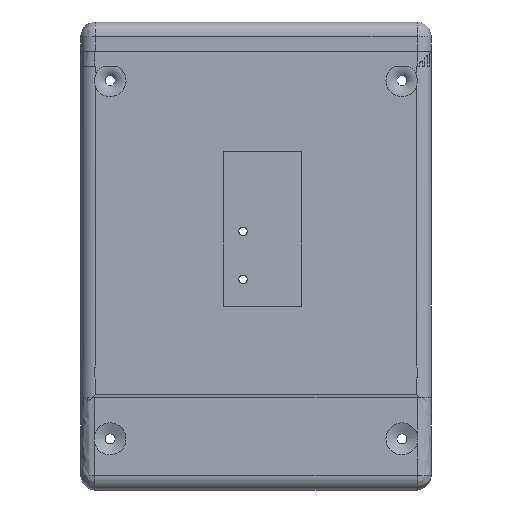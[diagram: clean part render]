
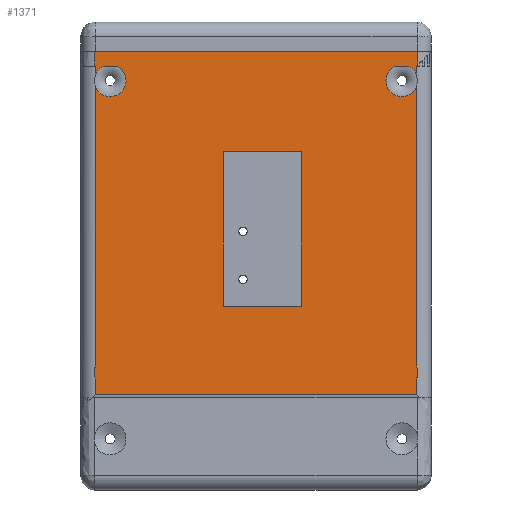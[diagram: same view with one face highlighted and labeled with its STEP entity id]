
A CAD part, front view. The second image highlights one B-rep face of the part: STEP entity #1371.
In plain terms, the highlighted planar face has unit normal (0, -1, 0).
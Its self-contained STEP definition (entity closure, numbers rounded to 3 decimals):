
#28=FACE_BOUND('',#246,.T.);
#166=FACE_OUTER_BOUND('',#245,.T.);
#245=EDGE_LOOP('',(#1197,#1198,#1199,#1200,#1201,#1202,#1203,#1204,#1205,
#1206,#1207,#1208,#1209,#1210,#1211,#1212,#1213,#1214,#1215,#1216,#1217));
#246=EDGE_LOOP('',(#1218,#1219,#1220,#1221));
#280=LINE('',#1862,#379);
#281=LINE('',#2041,#380);
#282=LINE('',#2201,#381);
#283=LINE('',#2215,#382);
#284=LINE('',#2229,#383);
#285=LINE('',#2233,#384);
#286=LINE('',#2237,#385);
#288=LINE('',#2263,#387);
#289=LINE('',#2284,#388);
#290=LINE('',#2297,#389);
#319=LINE('',#2488,#418);
#333=LINE('',#2520,#432);
#336=LINE('',#2526,#435);
#339=LINE('',#2531,#438);
#363=LINE('',#3647,#462);
#364=LINE('',#3648,#463);
#365=LINE('',#3649,#464);
#366=LINE('',#3653,#465);
#379=VECTOR('',#1515,10.);
#380=VECTOR('',#1516,10.);
#381=VECTOR('',#1517,10.);
#382=VECTOR('',#1520,10.);
#383=VECTOR('',#1523,10.);
#384=VECTOR('',#1528,10.);
#385=VECTOR('',#1533,10.);
#387=VECTOR('',#1563,10.);
#388=VECTOR('',#1564,10.);
#389=VECTOR('',#1565,10.);
#418=VECTOR('',#1644,10.);
#432=VECTOR('',#1674,10.);
#435=VECTOR('',#1679,10.);
#438=VECTOR('',#1684,10.);
#462=VECTOR('',#1784,10.);
#463=VECTOR('',#1785,10.);
#464=VECTOR('',#1786,10.);
#465=VECTOR('',#1793,10.);
#486=CIRCLE('',#1426,5.479);
#487=CIRCLE('',#1427,5.479);
#491=CIRCLE('',#1432,5.479);
#492=CIRCLE('',#1433,5.479);
#493=CIRCLE('',#1434,5.479);
#504=CIRCLE('',#1468,5.479);
#505=CIRCLE('',#1470,5.479);
#520=VERTEX_POINT('',#1836);
#521=VERTEX_POINT('',#1861);
#527=VERTEX_POINT('',#2040);
#538=VERTEX_POINT('',#2182);
#539=VERTEX_POINT('',#2203);
#540=VERTEX_POINT('',#2204);
#541=VERTEX_POINT('',#2217);
#542=VERTEX_POINT('',#2218);
#543=VERTEX_POINT('',#2231);
#544=VERTEX_POINT('',#2235);
#548=VERTEX_POINT('',#2262);
#549=VERTEX_POINT('',#2264);
#550=VERTEX_POINT('',#2283);
#551=VERTEX_POINT('',#2285);
#552=VERTEX_POINT('',#2296);
#558=VERTEX_POINT('',#2390);
#559=VERTEX_POINT('',#2404);
#562=VERTEX_POINT('',#2421);
#586=VERTEX_POINT('',#2486);
#587=VERTEX_POINT('',#2487);
#597=VERTEX_POINT('',#2519);
#599=VERTEX_POINT('',#2525);
#619=VERTEX_POINT('',#3331);
#620=VERTEX_POINT('',#3332);
#643=VERTEX_POINT('',#3645);
#659=EDGE_CURVE('',#520,#521,#280,.T.);
#666=EDGE_CURVE('',#521,#527,#281,.T.);
#679=EDGE_CURVE('',#520,#538,#282,.T.);
#681=EDGE_CURVE('',#539,#540,#283,.T.);
#683=EDGE_CURVE('',#541,#542,#284,.T.);
#685=EDGE_CURVE('',#543,#538,#285,.T.);
#687=EDGE_CURVE('',#527,#544,#286,.T.);
#697=EDGE_CURVE('',#544,#548,#288,.T.);
#699=EDGE_CURVE('',#549,#550,#289,.T.);
#701=EDGE_CURVE('',#551,#552,#290,.T.);
#710=EDGE_CURVE('',#558,#539,#486,.T.);
#711=EDGE_CURVE('',#540,#559,#487,.T.);
#716=EDGE_CURVE('',#562,#549,#491,.T.);
#717=EDGE_CURVE('',#548,#541,#492,.T.);
#718=EDGE_CURVE('',#542,#562,#493,.T.);
#748=EDGE_CURVE('',#586,#587,#319,.T.);
#764=EDGE_CURVE('',#587,#597,#333,.T.);
#767=EDGE_CURVE('',#597,#599,#336,.T.);
#770=EDGE_CURVE('',#599,#586,#339,.T.);
#799=EDGE_CURVE('',#620,#619,#504,.T.);
#800=EDGE_CURVE('',#551,#550,#505,.T.);
#839=EDGE_CURVE('',#643,#619,#363,.T.);
#840=EDGE_CURVE('',#620,#558,#364,.T.);
#841=EDGE_CURVE('',#559,#543,#365,.T.);
#842=EDGE_CURVE('',#552,#643,#366,.T.);
#1197=ORIENTED_EDGE('',*,*,#687,.F.);
#1198=ORIENTED_EDGE('',*,*,#666,.F.);
#1199=ORIENTED_EDGE('',*,*,#659,.F.);
#1200=ORIENTED_EDGE('',*,*,#679,.T.);
#1201=ORIENTED_EDGE('',*,*,#685,.F.);
#1202=ORIENTED_EDGE('',*,*,#841,.F.);
#1203=ORIENTED_EDGE('',*,*,#711,.F.);
#1204=ORIENTED_EDGE('',*,*,#681,.F.);
#1205=ORIENTED_EDGE('',*,*,#710,.F.);
#1206=ORIENTED_EDGE('',*,*,#840,.F.);
#1207=ORIENTED_EDGE('',*,*,#799,.T.);
#1208=ORIENTED_EDGE('',*,*,#839,.F.);
#1209=ORIENTED_EDGE('',*,*,#842,.F.);
#1210=ORIENTED_EDGE('',*,*,#701,.F.);
#1211=ORIENTED_EDGE('',*,*,#800,.T.);
#1212=ORIENTED_EDGE('',*,*,#699,.F.);
#1213=ORIENTED_EDGE('',*,*,#716,.F.);
#1214=ORIENTED_EDGE('',*,*,#718,.F.);
#1215=ORIENTED_EDGE('',*,*,#683,.F.);
#1216=ORIENTED_EDGE('',*,*,#717,.F.);
#1217=ORIENTED_EDGE('',*,*,#697,.F.);
#1218=ORIENTED_EDGE('',*,*,#748,.T.);
#1219=ORIENTED_EDGE('',*,*,#764,.T.);
#1220=ORIENTED_EDGE('',*,*,#767,.T.);
#1221=ORIENTED_EDGE('',*,*,#770,.T.);
#1308=PLANE('',#1498);
#1371=ADVANCED_FACE('',(#166,#28),#1308,.T.);
#1426=AXIS2_PLACEMENT_3D('',#2403,#1579,#1580);
#1427=AXIS2_PLACEMENT_3D('',#2405,#1581,#1582);
#1432=AXIS2_PLACEMENT_3D('',#2423,#1591,#1592);
#1433=AXIS2_PLACEMENT_3D('',#2424,#1593,#1594);
#1434=AXIS2_PLACEMENT_3D('',#2425,#1595,#1596);
#1468=AXIS2_PLACEMENT_3D('',#3343,#1726,#1727);
#1470=AXIS2_PLACEMENT_3D('',#3345,#1730,#1731);
#1498=AXIS2_PLACEMENT_3D('',#3656,#1798,#1799);
#1515=DIRECTION('',(1.,0.,0.));
#1516=DIRECTION('',(0.,0.,-1.));
#1517=DIRECTION('',(0.,0.,-1.));
#1520=DIRECTION('',(-1.,0.,0.));
#1523=DIRECTION('',(-1.,0.,0.));
#1528=DIRECTION('',(-1.,0.,0.));
#1533=DIRECTION('',(-1.,0.,0.));
#1563=DIRECTION('',(0.,0.,-1.));
#1564=DIRECTION('',(0.,0.,-1.));
#1565=DIRECTION('',(0.,0.,-1.));
#1579=DIRECTION('center_axis',(0.,-1.,0.));
#1580=DIRECTION('ref_axis',(1.,0.,0.));
#1581=DIRECTION('center_axis',(0.,-1.,0.));
#1582=DIRECTION('ref_axis',(1.,0.,0.));
#1591=DIRECTION('center_axis',(0.,-1.,0.));
#1592=DIRECTION('ref_axis',(1.,0.,-0.005));
#1593=DIRECTION('center_axis',(0.,-1.,0.));
#1594=DIRECTION('ref_axis',(1.,0.,-0.005));
#1595=DIRECTION('center_axis',(0.,-1.,0.));
#1596=DIRECTION('ref_axis',(1.,0.,-0.005));
#1644=DIRECTION('',(1.,0.,0.));
#1674=DIRECTION('',(0.,0.,-1.));
#1679=DIRECTION('',(-1.,0.,0.));
#1684=DIRECTION('',(0.,0.,1.));
#1726=DIRECTION('center_axis',(0.,-1.,0.));
#1727=DIRECTION('ref_axis',(1.,0.,0.));
#1730=DIRECTION('center_axis',(0.,-1.,0.));
#1731=DIRECTION('ref_axis',(1.,0.,0.));
#1784=DIRECTION('',(0.,0.,1.));
#1785=DIRECTION('',(0.,0.,1.));
#1786=DIRECTION('',(0.,0.,1.));
#1793=DIRECTION('',(-1.,0.,0.));
#1798=DIRECTION('center_axis',(0.,-1.,0.));
#1799=DIRECTION('ref_axis',(0.,0.,-1.));
#1836=CARTESIAN_POINT('',(-44.6,0.,43.7));
#1861=CARTESIAN_POINT('',(66.1,0.,43.7));
#1862=CARTESIAN_POINT('',(-44.6,0.,43.7));
#2040=CARTESIAN_POINT('',(66.1,0.,38.7));
#2041=CARTESIAN_POINT('',(66.1,0.,43.7));
#2182=CARTESIAN_POINT('',(-44.6,0.,38.7));
#2201=CARTESIAN_POINT('',(-44.6,0.,43.7));
#2203=CARTESIAN_POINT('',(-37.014,0.,38.7));
#2204=CARTESIAN_POINT('',(-41.626,0.,38.7));
#2215=CARTESIAN_POINT('',(-44.6,0.,38.7));
#2217=CARTESIAN_POINT('',(62.986,0.,38.7));
#2218=CARTESIAN_POINT('',(58.374,0.,38.7));
#2229=CARTESIAN_POINT('',(-44.6,0.,38.7));
#2231=CARTESIAN_POINT('',(-44.32,0.,38.7));
#2233=CARTESIAN_POINT('',(-44.6,0.,38.7));
#2235=CARTESIAN_POINT('',(65.68,0.,38.7));
#2237=CARTESIAN_POINT('',(-44.6,0.,38.7));
#2262=CARTESIAN_POINT('',(65.68,0.,35.97));
#2263=CARTESIAN_POINT('',(65.68,0.,0.));
#2264=CARTESIAN_POINT('',(65.68,0.,31.49));
#2283=CARTESIAN_POINT('',(65.68,0.,-64.03));
#2284=CARTESIAN_POINT('',(65.68,0.,0.));
#2285=CARTESIAN_POINT('',(65.68,0.,-68.51));
#2296=CARTESIAN_POINT('',(65.68,0.,-73.73));
#2297=CARTESIAN_POINT('',(65.68,0.,0.));
#2390=CARTESIAN_POINT('',(-44.32,0.,31.49));
#2403=CARTESIAN_POINT('Origin',(-39.32,0.,33.73));
#2404=CARTESIAN_POINT('',(-44.32,0.,35.97));
#2405=CARTESIAN_POINT('Origin',(-39.32,0.,33.73));
#2421=CARTESIAN_POINT('',(55.201,0.,33.76));
#2423=CARTESIAN_POINT('Origin',(60.68,0.,33.73));
#2424=CARTESIAN_POINT('Origin',(60.68,0.,33.73));
#2425=CARTESIAN_POINT('Origin',(60.68,0.,33.73));
#2486=CARTESIAN_POINT('',(-0.56,0.,9.472));
#2487=CARTESIAN_POINT('',(26.17,0.,9.472));
#2488=CARTESIAN_POINT('',(-0.28,0.,9.472));
#2519=CARTESIAN_POINT('',(26.17,0.,-43.612));
#2520=CARTESIAN_POINT('',(26.17,0.,-21.806));
#2525=CARTESIAN_POINT('',(-0.56,0.,-43.612));
#2526=CARTESIAN_POINT('',(-0.28,0.,-43.612));
#2531=CARTESIAN_POINT('',(-0.56,0.,-2.764));
#3331=CARTESIAN_POINT('',(-44.32,0.,-68.51));
#3332=CARTESIAN_POINT('',(-44.32,0.,-64.03));
#3343=CARTESIAN_POINT('Origin',(-39.32,0.,-66.27));
#3345=CARTESIAN_POINT('Origin',(60.68,0.,-66.27));
#3645=CARTESIAN_POINT('',(-44.32,0.,-73.73));
#3647=CARTESIAN_POINT('',(-44.32,0.,0.));
#3648=CARTESIAN_POINT('',(-44.32,0.,0.));
#3649=CARTESIAN_POINT('',(-44.32,0.,0.));
#3653=CARTESIAN_POINT('',(0.,0.,-73.73));
#3656=CARTESIAN_POINT('Origin',(0.,0.,0.));
